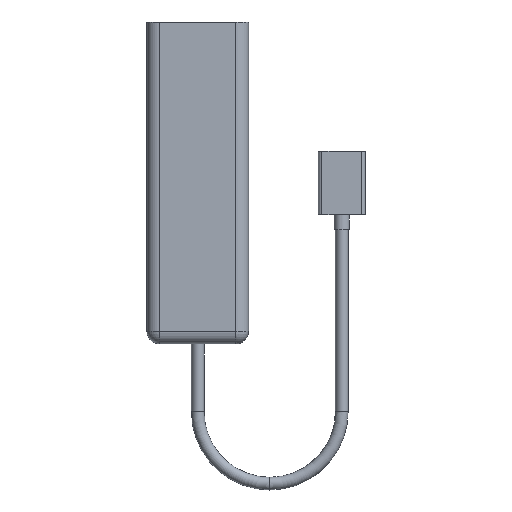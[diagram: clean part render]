
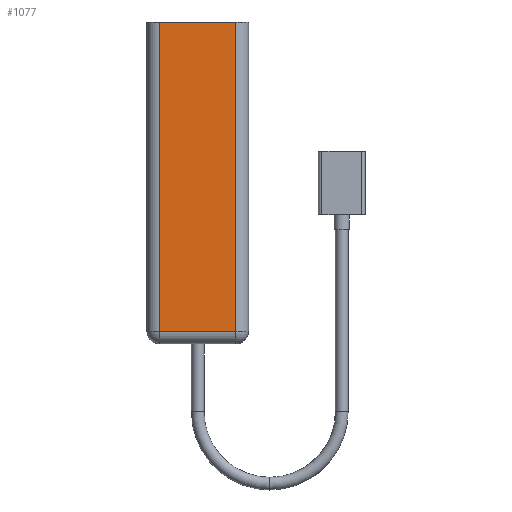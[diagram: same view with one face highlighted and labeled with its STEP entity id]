
A CAD part, front view. The second image highlights one B-rep face of the part: STEP entity #1077.
In plain terms, the highlighted planar face has unit normal (0, -1, 0).
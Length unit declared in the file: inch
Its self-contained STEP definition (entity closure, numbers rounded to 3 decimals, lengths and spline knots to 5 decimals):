
#94 = DIRECTION ( 'NONE',  ( 0., 0., -1. ) ) ;
#129 = CARTESIAN_POINT ( 'NONE',  ( 1.05, 0., 0. ) ) ;
#162 = CARTESIAN_POINT ( 'NONE',  ( 0.15, 0., 0. ) ) ;
#236 = VERTEX_POINT ( 'NONE', #1532 ) ;
#401 = EDGE_CURVE ( 'NONE', #1824, #236, #1377, .T. ) ;
#497 = VERTEX_POINT ( 'NONE', #162 ) ;
#616 = ORIENTED_EDGE ( 'NONE', *, *, #401, .T. ) ;
#662 = DIRECTION ( 'NONE',  ( 0., -1., 0. ) ) ;
#819 = VECTOR ( 'NONE', #2412, 39.37008 ) ;
#825 = ORIENTED_EDGE ( 'NONE', *, *, #1099, .T. ) ;
#913 = CARTESIAN_POINT ( 'NONE',  ( 1.2, 0., -3.65 ) ) ;
#992 = VECTOR ( 'NONE', #1546, 39.37008 ) ;
#1077 = ADVANCED_FACE ( 'NONE', ( #2620 ), #1969, .T. ) ;
#1093 = VECTOR ( 'NONE', #1801, 39.37008 ) ;
#1099 = EDGE_CURVE ( 'NONE', #236, #2561, #2052, .T. ) ;
#1150 = LINE ( 'NONE', #1334, #819 ) ;
#1334 = CARTESIAN_POINT ( 'NONE',  ( 0., 0., 0. ) ) ;
#1377 = LINE ( 'NONE', #913, #992 ) ;
#1402 = CARTESIAN_POINT ( 'NONE',  ( 0.15, 0., -3.65 ) ) ;
#1413 = VECTOR ( 'NONE', #94, 39.37008 ) ;
#1514 = ORIENTED_EDGE ( 'NONE', *, *, #2163, .T. ) ;
#1516 = EDGE_CURVE ( 'NONE', #497, #2561, #1150, .T. ) ;
#1532 = CARTESIAN_POINT ( 'NONE',  ( 1.05, 0., -3.65 ) ) ;
#1546 = DIRECTION ( 'NONE',  ( 1., 0., 0. ) ) ;
#1801 = DIRECTION ( 'NONE',  ( 0., 0., 1. ) ) ;
#1824 = VERTEX_POINT ( 'NONE', #1402 ) ;
#1830 = CARTESIAN_POINT ( 'NONE',  ( 0.15, 0., -3.8 ) ) ;
#1959 = DIRECTION ( 'NONE',  ( 0., 0., -1. ) ) ;
#1969 = PLANE ( 'NONE',  #2304 ) ;
#2014 = CARTESIAN_POINT ( 'NONE',  ( 1.05, 0., 0. ) ) ;
#2052 = LINE ( 'NONE', #2014, #1093 ) ;
#2163 = EDGE_CURVE ( 'NONE', #497, #1824, #2224, .T. ) ;
#2224 = LINE ( 'NONE', #1830, #1413 ) ;
#2304 = AXIS2_PLACEMENT_3D ( 'NONE', #2595, #662, #1959 ) ;
#2412 = DIRECTION ( 'NONE',  ( 1., 0., 0. ) ) ;
#2432 = ORIENTED_EDGE ( 'NONE', *, *, #1516, .F. ) ;
#2561 = VERTEX_POINT ( 'NONE', #129 ) ;
#2595 = CARTESIAN_POINT ( 'NONE',  ( 0., 0., 0. ) ) ;
#2620 = FACE_OUTER_BOUND ( 'NONE', #2702, .T. ) ;
#2702 = EDGE_LOOP ( 'NONE', ( #2432, #1514, #616, #825 ) ) ;
